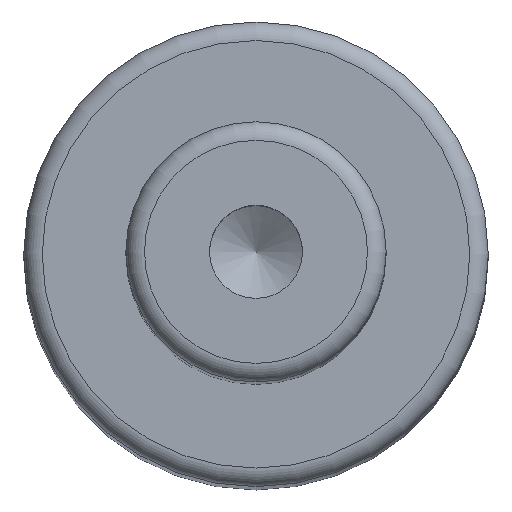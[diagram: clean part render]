
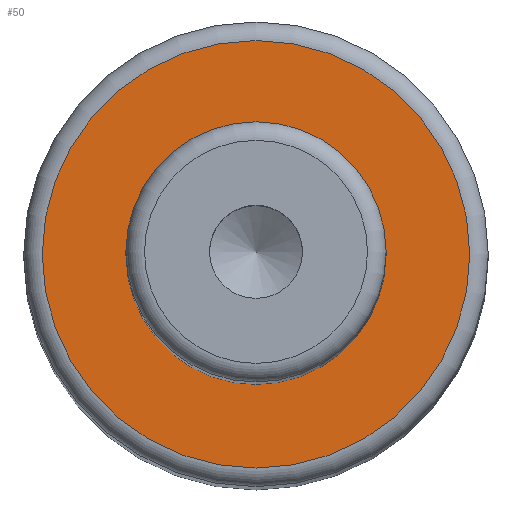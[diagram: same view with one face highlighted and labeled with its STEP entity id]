
A CAD part, top view. The second image highlights one B-rep face of the part: STEP entity #50.
In plain terms, the highlighted planar face has unit normal (0, 0, 1).
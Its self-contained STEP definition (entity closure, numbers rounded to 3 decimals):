
#40=PLANE('',#179);
#50=ADVANCED_FACE('',(#72,#73),#40,.F.);
#72=FACE_BOUND('',#96,.T.);
#73=FACE_BOUND('',#97,.T.);
#96=EDGE_LOOP('',(#118));
#97=EDGE_LOOP('',(#119));
#118=ORIENTED_EDGE('',*,*,#149,.F.);
#119=ORIENTED_EDGE('',*,*,#148,.T.);
#135=VERTEX_POINT('',#256);
#136=VERTEX_POINT('',#259);
#148=EDGE_CURVE('',#135,#135,#159,.T.);
#149=EDGE_CURVE('',#136,#136,#160,.T.);
#159=CIRCLE('',#176,7.);
#160=CIRCLE('',#178,11.5);
#176=AXIS2_PLACEMENT_3D('',#255,#213,#214);
#178=AXIS2_PLACEMENT_3D('',#258,#217,#218);
#179=AXIS2_PLACEMENT_3D('',#260,#219,#220);
#213=DIRECTION('',(0.,0.,-1.));
#214=DIRECTION('',(-1.,0.,0.));
#217=DIRECTION('',(0.,0.,-1.));
#218=DIRECTION('',(-1.,0.,0.));
#219=DIRECTION('',(0.,0.,-1.));
#220=DIRECTION('',(-1.,0.,0.));
#255=CARTESIAN_POINT('',(0.,0.,104.));
#256=CARTESIAN_POINT('',(-7.,0.,104.));
#258=CARTESIAN_POINT('',(0.,0.,104.));
#259=CARTESIAN_POINT('',(-11.5,0.,104.));
#260=CARTESIAN_POINT('',(7.,0.,104.));
